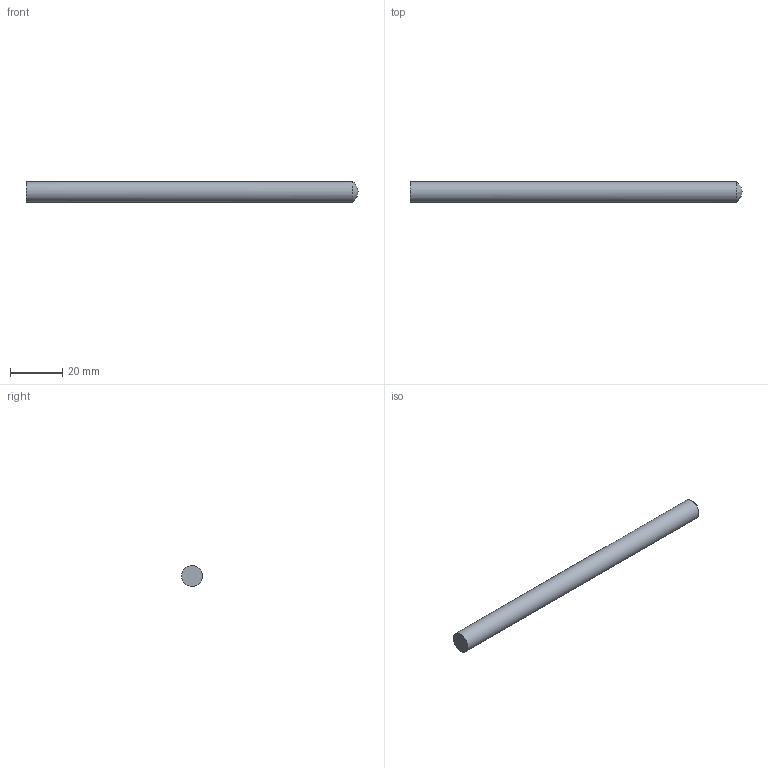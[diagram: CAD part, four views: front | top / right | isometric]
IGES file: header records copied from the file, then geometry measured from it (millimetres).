
Global section: file name: G1122-1; native system: Autodesk RealDWG; preprocessor: Autodesk Translation Framework DWG producer (atf_dwg_producer); organization: unknown; date: 20210811.173945; units: inch
Bounding box: 127 x 7.93 x 7.94 mm (x, y, z)
Volume: 6248.1 mm3; surface area: 3233.2 mm2
Topology: 1 solids, 1 shells, 3 faces, 6 edges, 4 vertices
Faces by surface type: bspline 3
